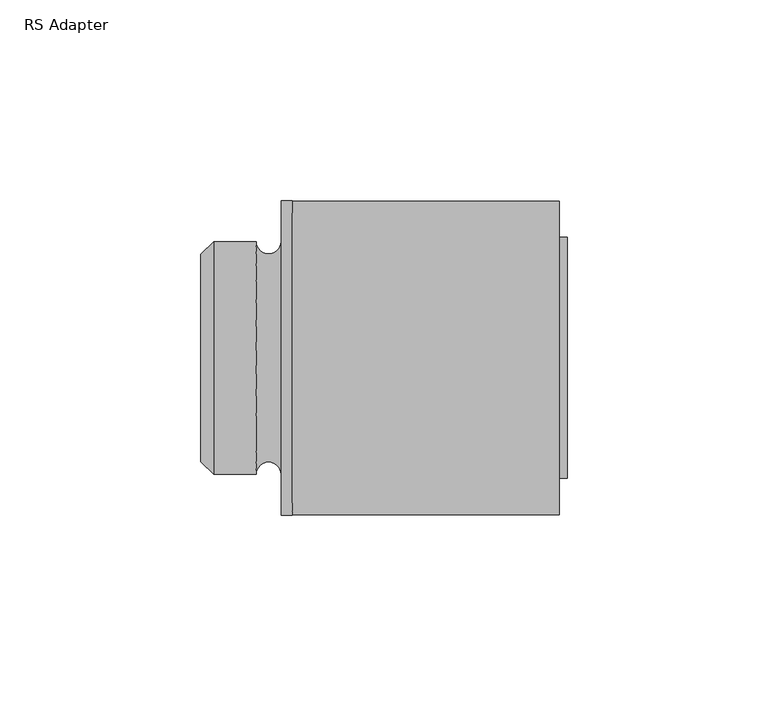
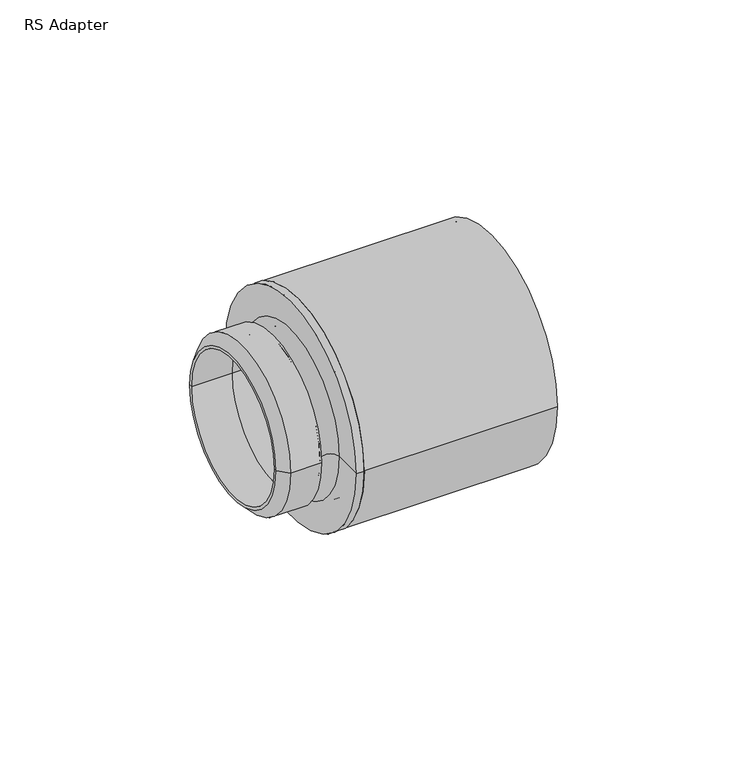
"""IFC4 building model written with IfcOpenShell, lengths in millimetres: pipe fitting geometry, RS Adapter : Superpipe RS Press Adapter."""

from ifc_helpers import new_model, si_unit, point, frame, origin, place, context, project, spatial, polyline, circle_curve, ellipse_curve, trimmed, source, transform, mapped, element, save
from ifc_brep_helpers import plane_surface, cylinder_surface, revolved_surface, advanced_brep


def rs_adapter_b700a1d7(model_context):
    return source(origin(), model_context, "Body", "AdvancedBrep", [
        advanced_brep(
        [(89.3, -39.0, 0.0), (89.3, 39.0, 0.0), (89.3, 37.5, 0.0), (89.3, -37.5, 0.0), (22.8, 37.5, 0.0), (22.8, -37.5, 0.0), (22.8, 39.0, 0.0), (22.8, -39.0, 0.0)],
        [
            (0, 1, circle_curve(frame((89.3, 0.0, 0.0), z_axis=(1.0, 0.0, 0.0), x_axis=(0.0, 1.0, 0.0)), 39.0)),
            (1, 2),
            (2, 3, circle_curve(frame((89.3, 0.0, 0.0), z_axis=(-1.0, 0.0, 0.0), x_axis=(0.0, 1.0, 0.0)), 37.5)),
            (3, 0),
            (2, 4),
            (4, 5, circle_curve(frame((22.8, 0.0, 0.0), z_axis=(-1.0, 0.0, 0.0), x_axis=(0.0, 1.0, 0.0)), 37.5)),
            (5, 3),
            (4, 6),
            (6, 7, circle_curve(frame((22.8, 0.0, 0.0), z_axis=(-1.0, 0.0, 0.0), x_axis=(0.0, 1.0, 0.0)), 39.0)),
            (7, 5),
            (6, 1),
            (0, 7),
            (6, 7, circle_curve(frame((22.8, 0.0, 0.0), z_axis=(1.0, 0.0, 0.0), x_axis=(0.0, 1.0, 0.0)), 39.0)),
            (0, 1, circle_curve(frame((89.3, 0.0, 0.0), z_axis=(-1.0, 0.0, 0.0), x_axis=(0.0, 1.0, 0.0)), 39.0)),
            (4, 5, circle_curve(frame((22.8, 0.0, 0.0), z_axis=(1.0, 0.0, 0.0), x_axis=(0.0, 1.0, 0.0)), 37.5)),
            (2, 3, circle_curve(frame((89.3, 0.0, 0.0), z_axis=(1.0, 0.0, 0.0), x_axis=(0.0, 1.0, 0.0)), 37.5)),
        ],
        [
            plane_surface(frame((89.3, 0.0, 0.0), z_axis=(1.0, 0.0, 0.0), x_axis=(0.0, 1.0, 0.0))),
            revolved_surface(polyline([(22.799999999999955, 37.5, 0.0), (89.29999999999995, 37.5, 0.0)]), (2026.5, 0.0, 0.0), (-1.0, 0.0, 0.0)),
            plane_surface(frame((22.8, 0.0, 0.0), z_axis=(-1.0, 0.0, 0.0), x_axis=(0.0, 1.0, 0.0))),
            cylinder_surface(frame((2026.5, 0.0, 0.0), z_axis=(-1.0, 0.0, 0.0), x_axis=(0.0, 1.0, 0.0)), 39.0),
        ],
        [
            (0, [[1, 2, 3, 4]]),
            (1, [[-3, 5, 6, 7]]),
            (2, [[-6, 8, 9, 10]]),
            (3, [[-9, 11, -1, 12]]),
            (3, [[13, -12, 14, -11]]),
            (2, [[15, -10, -13, -8]]),
            (1, [[16, -7, -15, -5]]),
            (0, [[-14, -4, -16, -2]]),
        ],
    ),
        advanced_brep(
        [(91.3, -30.0, 0.0), (91.3, 30.0, 0.0), (91.3, 24.8, 0.0), (91.3, -24.8, 0.0), (22.8, 24.8, 0.0), (22.8, -24.8, 0.0), (22.8, 30.0, 0.0), (22.8, -30.0, 0.0)],
        [
            (0, 1, circle_curve(frame((91.3, 0.0, 0.0), z_axis=(1.0, 0.0, 0.0), x_axis=(0.0, 1.0, 0.0)), 30.0)),
            (1, 2),
            (2, 3, circle_curve(frame((91.3, 0.0, 0.0), z_axis=(-1.0, 0.0, 0.0), x_axis=(0.0, 1.0, 0.0)), 24.8)),
            (3, 0),
            (2, 4),
            (4, 5, circle_curve(frame((22.8, 0.0, 0.0), z_axis=(-1.0, 0.0, 0.0), x_axis=(0.0, 1.0, 0.0)), 24.8)),
            (5, 3),
            (4, 6),
            (6, 7, circle_curve(frame((22.8, 0.0, 0.0), z_axis=(-1.0, 0.0, 0.0), x_axis=(0.0, 1.0, 0.0)), 30.0)),
            (7, 5),
            (6, 1),
            (0, 7),
            (6, 7, circle_curve(frame((22.8, 0.0, 0.0), z_axis=(1.0, 0.0, 0.0), x_axis=(0.0, 1.0, 0.0)), 30.0)),
            (0, 1, circle_curve(frame((91.3, 0.0, 0.0), z_axis=(-1.0, 0.0, 0.0), x_axis=(0.0, 1.0, 0.0)), 30.0)),
            (4, 5, circle_curve(frame((22.8, 0.0, 0.0), z_axis=(1.0, 0.0, 0.0), x_axis=(0.0, 1.0, 0.0)), 24.8)),
            (2, 3, circle_curve(frame((91.3, 0.0, 0.0), z_axis=(1.0, 0.0, 0.0), x_axis=(0.0, 1.0, 0.0)), 24.8)),
        ],
        [
            plane_surface(frame((91.3, 0.0, 0.0), z_axis=(1.0, 0.0, 0.0), x_axis=(0.0, 1.0, 0.0))),
            revolved_surface(polyline([(22.799999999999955, 24.8, 0.0), (91.29999999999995, 24.8, 0.0)]), (2026.5, 0.0, 0.0), (-1.0, 0.0, 0.0)),
            plane_surface(frame((22.8, 0.0, 0.0), z_axis=(-1.0, 0.0, 0.0), x_axis=(0.0, 1.0, 0.0))),
            cylinder_surface(frame((2026.5, 0.0, 0.0), z_axis=(-1.0, 0.0, 0.0), x_axis=(0.0, 1.0, 0.0)), 30.0),
        ],
        [
            (0, [[1, 2, 3, 4]]),
            (1, [[-3, 5, 6, 7]]),
            (2, [[-6, 8, 9, 10]]),
            (3, [[-9, 11, -1, 12]]),
            (3, [[13, -12, 14, -11]]),
            (2, [[15, -10, -13, -8]]),
            (1, [[16, -7, -15, -5]]),
            (0, [[-14, -4, -16, -2]]),
        ],
    ),
        advanced_brep(
        [(20.0, -39.15, 0.0), (20.0, 39.15, 0.0), (22.8, 39.15, 0.0), (22.8, -39.15, 0.0), (20.0, -29.0, 0.0), (20.0, 29.0, 0.0), (22.8, 24.8, 0.0), (22.8, -24.8, 0.0), (0.0, -25.8, 0.0), (0.0, 25.8, 0.0), (3.2, 29.0, 0.0), (3.2, -29.0, 0.0), (0.0, -24.8, 0.0), (0.0, 24.8, 0.0), (13.8, -29.0, 0.0), (13.8, 29.0, 0.0), (14.0, -24.8, 0.0), (14.0, 24.8, 0.0)],
        [
            (0, 1, circle_curve(frame((20.0, 0.0, 0.0), z_axis=(1.0, 0.0, 0.0), x_axis=(0.0, 1.0, 0.0)), 39.15)),
            (1, 2),
            (2, 3, circle_curve(frame((22.8, 0.0, 0.0), z_axis=(-1.0, 0.0, 0.0), x_axis=(0.0, 1.0, 0.0)), 39.15)),
            (3, 0),
            (1, 0, circle_curve(frame((20.0, 0.0, 0.0), z_axis=(1.0, 0.0, 0.0), x_axis=(0.0, 1.0, 0.0)), 39.15)),
            (3, 2, circle_curve(frame((22.8, 0.0, 0.0), z_axis=(-1.0, 0.0, 0.0), x_axis=(0.0, 1.0, 0.0)), 39.15)),
            (0, 4),
            (4, 5, circle_curve(frame((20.0, 0.0, 0.0), z_axis=(1.0, 0.0, 0.0), x_axis=(0.0, 1.0, 0.0)), 29.0)),
            (5, 1),
            (5, 4, circle_curve(frame((20.0, 0.0, 0.0), z_axis=(1.0, 0.0, 0.0), x_axis=(0.0, 1.0, 0.0)), 29.0)),
            (2, 6),
            (6, 7, circle_curve(frame((22.8, 0.0, 0.0), z_axis=(-1.0, 0.0, 0.0), x_axis=(0.0, 1.0, 0.0)), 24.8)),
            (7, 3),
            (7, 6, circle_curve(frame((22.8, 0.0, 0.0), z_axis=(-1.0, 0.0, 0.0), x_axis=(0.0, 1.0, 0.0)), 24.8)),
            (8, 9, circle_curve(frame((0.0, 0.0, 0.0), z_axis=(1.0, 0.0, 0.0), x_axis=(0.0, 1.0, 0.0)), 25.8)),
            (9, 10),
            (10, 11, circle_curve(frame((3.2, 0.0, 0.0), z_axis=(-1.0, 0.0, 0.0), x_axis=(0.0, 1.0, 0.0)), 29.0)),
            (11, 8),
            (9, 8, circle_curve(frame((0.0, 0.0, 0.0), z_axis=(1.0, 0.0, 0.0), x_axis=(0.0, 1.0, 0.0)), 25.8)),
            (11, 10, circle_curve(frame((3.2, 0.0, 0.0), z_axis=(-1.0, 0.0, 0.0), x_axis=(0.0, 1.0, 0.0)), 29.0)),
            (8, 12),
            (12, 13, circle_curve(frame((0.0, 0.0, 0.0), z_axis=(1.0, 0.0, 0.0), x_axis=(0.0, 1.0, 0.0)), 24.8)),
            (13, 9),
            (13, 12, circle_curve(frame((0.0, 0.0, 0.0), z_axis=(1.0, 0.0, 0.0), x_axis=(0.0, 1.0, 0.0)), 24.8)),
            (4, 14, circle_curve(frame((16.9, -29.0, 0.0), z_axis=(0.0, 0.0, 1.0), x_axis=(1.0, 0.0, 0.0)), 3.1)),
            (14, 15, circle_curve(frame((13.8, 0.0, 0.0), z_axis=(1.0, 0.0, 0.0), x_axis=(0.0, 1.0, 0.0)), 29.0)),
            (15, 5, circle_curve(frame((16.9, 29.0, 0.0), z_axis=(0.0, 0.0, 1.0), x_axis=(1.0, 0.0, 0.0)), 3.1)),
            (15, 14, circle_curve(frame((13.8, 0.0, 0.0), z_axis=(1.0, 0.0, 0.0), x_axis=(0.0, 1.0, 0.0)), 29.0)),
            (10, 15),
            (14, 11),
            (12, 16),
            (16, 17, circle_curve(frame((14.0, 0.0, 0.0), z_axis=(1.0, 0.0, 0.0), x_axis=(0.0, 1.0, 0.0)), 24.8)),
            (17, 13),
            (17, 16, circle_curve(frame((14.0, 0.0, 0.0), z_axis=(1.0, 0.0, 0.0), x_axis=(0.0, 1.0, 0.0)), 24.8)),
            (16, 7),
            (6, 17),
        ],
        [
            cylinder_surface(frame((2011.3, 0.0, 0.0), z_axis=(-1.0, 0.0, 0.0), x_axis=(0.0, 1.0, 0.0)), 39.15),
            plane_surface(frame((20.0, 0.0, 0.0), z_axis=(-1.0, 0.0, 0.0), x_axis=(0.0, 1.0, 0.0))),
            plane_surface(frame((22.8, 0.0, 0.0), z_axis=(1.0, 0.0, 0.0), x_axis=(0.0, 1.0, 0.0))),
            revolved_surface(polyline([(3.2, 29.0, 0.0), (0.0, 25.8, 0.0)]), (2011.3, 0.0, 0.0), (-1.0, 0.0, 0.0)),
            plane_surface(frame((0.0, 0.0, 0.0), z_axis=(-1.0, 0.0, 0.0), x_axis=(0.0, 1.0, 0.0))),
            revolved_surface(trimmed(ellipse_curve(frame((16.9, 29.0, 0.0), z_axis=(0.0, 0.0, -1.0), x_axis=(1.0, 0.0, 0.0)), 3.1, 3.1), [point((20.0, 29.0, 0.0))], [point((13.8, 29.0, 0.0))], True, "CARTESIAN"), (2011.3, 0.0, 0.0), (-1.0, 0.0, 0.0)),
            cylinder_surface(frame((2011.3, 0.0, 0.0), z_axis=(-1.0, 0.0, 0.0), x_axis=(0.0, 1.0, 0.0)), 29.0),
            revolved_surface(polyline([(0.0, 24.8, 0.0), (14.0, 24.8, 0.0)]), (2037.5, 0.0, 0.0), (-1.0, 0.0, 0.0)),
            revolved_surface(polyline([(14.0, 24.8, 0.0), (22.799999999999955, 24.8, 0.0)]), (2037.5, 0.0, 0.0), (-1.0, 0.0, 0.0)),
        ],
        [
            (0, [[1, 2, 3, 4]]),
            (0, [[-2, 5, -4, 6]]),
            (1, [[-1, 7, 8, 9]]),
            (1, [[-5, -9, 10, -7]]),
            (2, [[-3, 11, 12, 13]]),
            (2, [[-6, -13, 14, -11]]),
            (3, [[15, 16, 17, 18]]),
            (3, [[-16, 19, -18, 20]]),
            (4, [[-15, 21, 22, 23]]),
            (4, [[-19, -23, 24, -21]]),
            (5, [[-8, 25, 26, 27]]),
            (5, [[-10, -27, 28, -25]]),
            (6, [[-17, 29, -26, 30]]),
            (6, [[-20, -30, -28, -29]]),
            (7, [[31, 32, 33, -22]]),
            (7, [[-31, -24, -33, 34]]),
            (8, [[-32, 35, -12, 36]]),
            (8, [[-34, -36, -14, -35]]),
        ],
    ),
    ])


if __name__ == "__main__":
    model = new_model("IFC4")
    model_context = context("Model", 3, world=origin())
    ifc_project = project(units=[si_unit("LENGTHUNIT", "METRE", prefix="MILLI")], contexts=[model_context])
    site = spatial("IfcSite", under=ifc_project)
    building = spatial("IfcBuilding", under=site)
    placement = place(None, origin())
    rs_adapter_shape = rs_adapter_b700a1d7(model_context)
    element("IfcPipeFitting", 1, ObjectType="RS Adapter : Superpipe RS Press Adapter", at=placement, inside=building, context=model_context, shape_type="MappedRepresentation", body=[
        mapped(rs_adapter_shape, transform((0.0, 0.0, 0.0), x_axis=(1.0, 0.0, 0.0), y_axis=(0.0, 1.0, 0.0), z_axis=(0.0, 0.0, 1.0))),
    ])
    save(model, "model.ifc")
